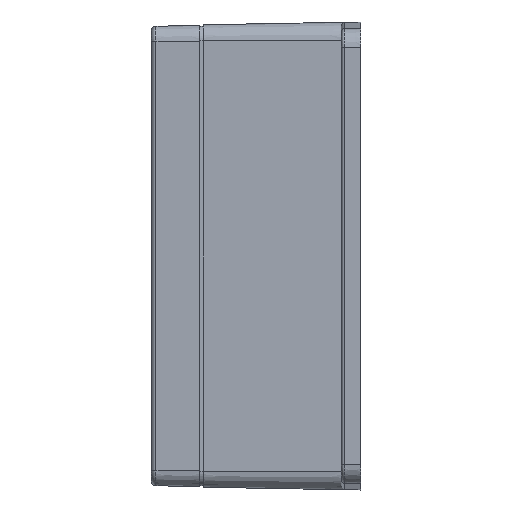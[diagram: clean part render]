
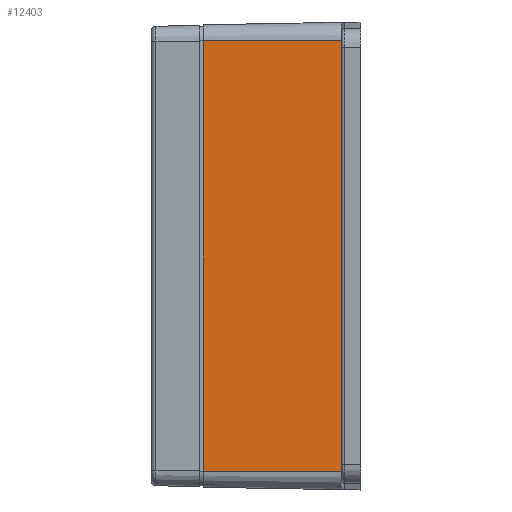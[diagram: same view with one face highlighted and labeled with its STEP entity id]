
A CAD part, left-side view. The second image highlights one B-rep face of the part: STEP entity #12403.
In plain terms, the highlighted planar face has unit normal (-1, 0.018, 0).
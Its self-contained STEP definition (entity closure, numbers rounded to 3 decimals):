
#1500 = FACE_OUTER_BOUND ( 'NONE', #29186, .T. ) ;
#4788 = VECTOR ( 'NONE', #23827, 1000. ) ;
#5007 = CARTESIAN_POINT ( 'NONE',  ( -111.35, 0., -68.2 ) ) ;
#5219 = CARTESIAN_POINT ( 'NONE',  ( -111.35, 0., 68.2 ) ) ;
#9593 = VERTEX_POINT ( 'NONE', #20266 ) ;
#12403 = ADVANCED_FACE ( 'NONE', ( #1500 ), #29015, .T. ) ;
#12462 = EDGE_CURVE ( 'NONE', #28466, #9593, #43703, .T. ) ;
#14380 = DIRECTION ( 'NONE',  ( -0.017, -1., 0. ) ) ;
#15618 = VECTOR ( 'NONE', #23623, 1000. ) ;
#17658 = CARTESIAN_POINT ( 'NONE',  ( -112.132, -44.8, 68.2 ) ) ;
#20266 = CARTESIAN_POINT ( 'NONE',  ( -111.367, -1., 68.2 ) ) ;
#21093 = LINE ( 'NONE', #35080, #33326 ) ;
#22168 = ORIENTED_EDGE ( 'NONE', *, *, #36264, .F. ) ;
#23623 = DIRECTION ( 'NONE',  ( 0.017, 1., 0. ) ) ;
#23827 = DIRECTION ( 'NONE',  ( 0.017, 1., 0. ) ) ;
#23834 = CARTESIAN_POINT ( 'NONE',  ( -112.132, -44.8, -68.2 ) ) ;
#24098 = VECTOR ( 'NONE', #47518, 1000. ) ;
#25677 = DIRECTION ( 'NONE',  ( 0., 0., -1. ) ) ;
#28208 = LINE ( 'NONE', #5007, #15618 ) ;
#28466 = VERTEX_POINT ( 'NONE', #17658 ) ;
#28821 = CARTESIAN_POINT ( 'NONE',  ( -111.367, -1., 68.2 ) ) ;
#29015 = PLANE ( 'NONE',  #57514 ) ;
#29186 = EDGE_LOOP ( 'NONE', ( #29276, #49716, #32505, #22168 ) ) ;
#29276 = ORIENTED_EDGE ( 'NONE', *, *, #12462, .T. ) ;
#32505 = ORIENTED_EDGE ( 'NONE', *, *, #34862, .F. ) ;
#33326 = VECTOR ( 'NONE', #25677, 1000. ) ;
#34862 = EDGE_CURVE ( 'NONE', #55183, #60234, #28208, .T. ) ;
#35080 = CARTESIAN_POINT ( 'NONE',  ( -112.132, -44.8, 68.2 ) ) ;
#36264 = EDGE_CURVE ( 'NONE', #28466, #55183, #21093, .T. ) ;
#36707 = LINE ( 'NONE', #28821, #24098 ) ;
#38699 = CARTESIAN_POINT ( 'NONE',  ( -111.367, -1., -68.2 ) ) ;
#43703 = LINE ( 'NONE', #5219, #4788 ) ;
#45640 = EDGE_CURVE ( 'NONE', #9593, #60234, #36707, .T. ) ;
#47419 = DIRECTION ( 'NONE',  ( -1., 0.017, 0. ) ) ;
#47518 = DIRECTION ( 'NONE',  ( 0., 0., -1. ) ) ;
#49716 = ORIENTED_EDGE ( 'NONE', *, *, #45640, .T. ) ;
#55183 = VERTEX_POINT ( 'NONE', #23834 ) ;
#56567 = CARTESIAN_POINT ( 'NONE',  ( -111.35, 0., 68.2 ) ) ;
#57514 = AXIS2_PLACEMENT_3D ( 'NONE', #56567, #47419, #14380 ) ;
#60234 = VERTEX_POINT ( 'NONE', #38699 ) ;
